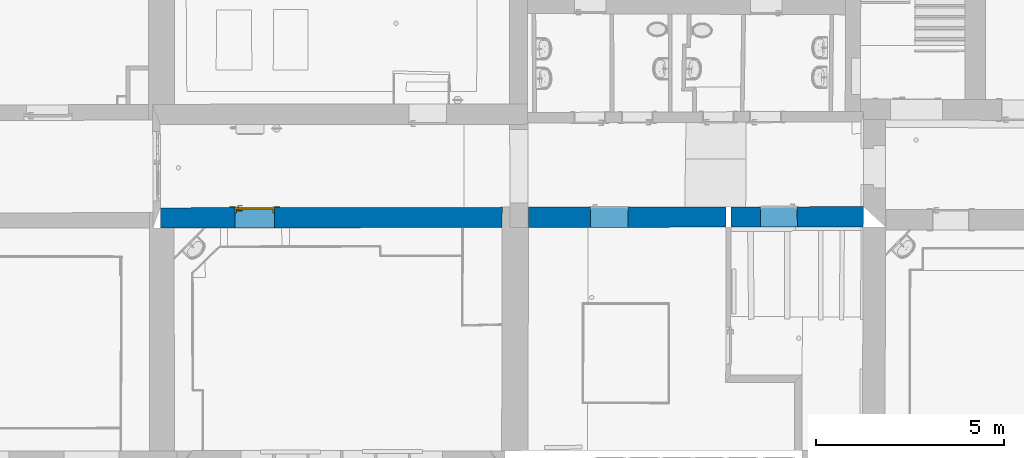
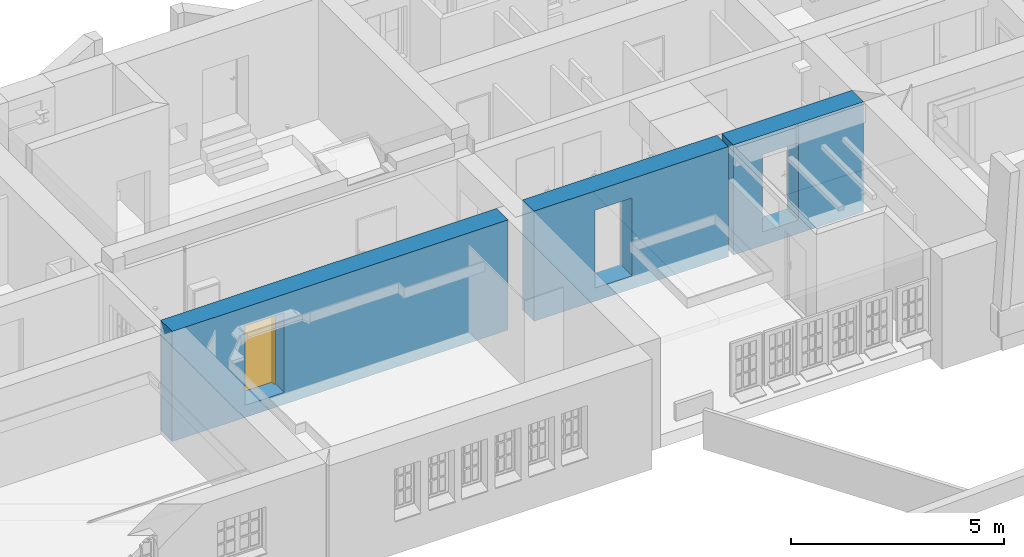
# One storey, part 95 of 196: 1 door, 1 wall, 3 openings.
"""IFC2X3 building model written with IfcOpenShell, lengths in metres."""

from ifc_helpers import new_model, entity, si_unit, converted_unit, derived_unit, money_unit, direction, frame, origin_with_axes, origin_2d_with_axis, place, context, subcontext, project, spatial, polyline, rectangle, outline, extrude, boolean, faceted_brep, material, type_object, element, fill, save


model = new_model("IFC2X3")

# Units and contexts
model_context = context("Model", 3, precision=1e-05, world=origin_with_axes(), true_north=direction((0.0, 1.0)))
body_context = subcontext(model_context, "Body", "Model", "MODEL_VIEW")
ifc_project = project(units=[si_unit("LENGTHUNIT", "METRE"), si_unit("AREAUNIT", "SQUARE_METRE"), si_unit("VOLUMEUNIT", "CUBIC_METRE"), converted_unit("PLANEANGLEUNIT", "DEGREE", entity("IfcPlaneAngleMeasure", 0.0174532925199), si_unit("PLANEANGLEUNIT", "RADIAN"), dimensions=[0, 0, 0, 0, 0, 0, 0]), money_unit("EUR"), converted_unit("TIMEUNIT", "Year", entity("IfcTimeMeasure", 31556926.0), si_unit("TIMEUNIT", "SECOND"), dimensions=[0, 0, 1, 0, 0, 0, 0]), si_unit("MASSUNIT", "GRAM", prefix="KILO"), si_unit("THERMODYNAMICTEMPERATUREUNIT", "DEGREE_CELSIUS"), si_unit("LUMINOUSINTENSITYUNIT", "LUMEN"), si_unit("ENERGYUNIT", "JOULE", prefix="MEGA"), derived_unit("THERMALCONDUCTANCEUNIT", [(si_unit("POWERUNIT", "WATT"), 1), (si_unit("LENGTHUNIT", "METRE"), -1), (si_unit("THERMODYNAMICTEMPERATUREUNIT", "KELVIN"), -1)]), derived_unit("SPECIFICHEATCAPACITYUNIT", [(si_unit("ENERGYUNIT", "JOULE"), 1), (si_unit("MASSUNIT", "GRAM", prefix="KILO"), -1), (si_unit("THERMODYNAMICTEMPERATUREUNIT", "KELVIN"), -1)]), derived_unit("MASSDENSITYUNIT", [(si_unit("MASSUNIT", "GRAM", prefix="KILO"), 1), (si_unit("VOLUMEUNIT", "CUBIC_METRE"), -1)])], contexts=[model_context])

# Site, building, storey
site_placement = place(None, origin_with_axes())
site = spatial("IfcSite", under=ifc_project, at=site_placement, Name="Gelände", CompositionType="ELEMENT")
building_placement = place(site_placement, origin_with_axes())
building = spatial("IfcBuilding", under=site, at=building_placement, Name="Gebäude", CompositionType="ELEMENT")
storey_placement = place(building_placement, frame((0.0, 0.0, -3.0), z_axis=(0.0, 0.0, 1.0), x_axis=(1.0, 0.0, 0.0)))
storey = spatial("IfcBuildingStorey", under=building, at=storey_placement, Name="KELLERGESCHOSS", CompositionType="ELEMENT", Elevation=-3.0)

# Wall, openings, door
ifc_material = material(Name="05_ALLGEMEIN - TRAGENDE BAUTEILE")
wall_type = type_object("IfcWallType", Name="05_ALLGEMEIN - TRAGENDE BAUTEILE 540", PredefinedType="ELEMENTEDWALL")
wall_placement = place(storey_placement, frame((21.9688178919, 16.9699382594, -0.36), z_axis=(0.0, 0.0, 1.0), x_axis=(-0.999998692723, -0.00161695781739, 0.0)))
wall = element("IfcWall", 1, at=wall_placement, inside=storey, type_object=wall_type, material=ifc_material, Name="Wand-036", ObjectType="ELEMENTEDWALL", context=body_context, shape_type="CSG", body=[
    boolean("DIFFERENCE", boolean("DIFFERENCE", boolean("DIFFERENCE", boolean("DIFFERENCE", extrude(outline(polyline([(-0.585878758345, 0.0), (18.9209869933, 0.0), (18.9209869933, 0.54), (-0.585878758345, 0.54), (-0.585878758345, 0.0)])), origin_with_axes(), (0.0, 0.0, 1.0), 3.15), faceted_brep([(18.7195389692, 0.54, 0.0), (18.7195389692, 0.54, 3.15), (18.9209869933, 0.54, 3.15), (18.9209869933, 0.54, 0.0), (18.7209862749, 0.0, 3.15), (18.7209862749, 0.0, 0.0), (18.9209869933, 0.0, 3.15), (18.9209869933, 0.0, 0.0)], [[[0, 1, 2, 3]], [[4, 1, 0, 5]], [[1, 4, 6, 2]], [[6, 7, 3, 2]], [[5, 0, 3, 7]], [[4, 5, 7, 6]]])), faceted_brep([(0.0, 0.0, 0.0), (0.0, 0.0, 3.15), (-0.585878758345, 0.0, 3.15), (-0.585878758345, 0.0, 0.0), (0.000340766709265, 0.0744834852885, 3.15), (0.000340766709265, 0.0744834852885, 0.0), (0.0031865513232, 0.0744756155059, 3.15), (0.0059051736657, 0.540000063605, 3.15), (-0.585878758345, 0.54, 3.15), (-0.585878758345, 0.54, 0.0), (0.00590520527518, 0.54, 0.0), (0.0031865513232, 0.0744756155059, 0.0), (0.0059051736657, 0.540000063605, 2.62)], [[[0, 1, 2, 3]], [[4, 1, 0, 5]], [[6, 7, 8, 2, 1, 4]], [[8, 9, 3, 2]], [[5, 0, 3, 9, 10, 11]], [[6, 4, 5, 11]], [[7, 6, 11, 10, 12]], [[12, 10, 9, 8, 7]]])), faceted_brep([(3.65791219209, 0.0, 0.0), (3.65791219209, 0.0, 3.15), (3.52791129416, 0.0, 3.15), (3.52791129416, 0.0, 0.0), (3.65991925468, 0.54, 3.15), (3.65991925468, 0.54, 0.0), (3.52991835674, 0.54, 3.15), (3.52991835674, 0.54, 0.0)], [[[0, 1, 2, 3]], [[4, 1, 0, 5]], [[1, 4, 6, 2]], [[3, 2, 6, 7]], [[5, 0, 3, 7]], [[4, 5, 7, 6]]])), faceted_brep([(9.61975499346, 0.0, 0.0), (9.61975499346, 0.0, 3.15), (8.91974889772, 0.0, 3.15), (8.91974889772, 0.0, 0.0), (9.62200857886, 0.54, 3.15), (9.62200857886, 0.54, 0.0), (8.92200248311, 0.54, 3.15), (8.92200248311, 0.54, 0.0)], [[[0, 1, 2, 3]], [[4, 1, 0, 5]], [[1, 4, 6, 2]], [[3, 2, 6, 7]], [[5, 0, 3, 7]], [[4, 5, 7, 6]]])),
])
opening_1_placement = place(wall_placement, frame((16.2148036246, 0.0, 0.348037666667), z_axis=(0.0, 0.0, 1.0), x_axis=(1.0, 0.0, 0.0)))
opening_1 = element("IfcOpeningElement", 2, at=opening_1_placement, cuts=wall, Name="Tür-022", context=body_context, shape_type="SweptSolid", body=[
    extrude(rectangle(XDim=1.05454069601, YDim=2.277381, at=origin_2d_with_axis()), frame((0.0, -0.54, 1.1386905), z_axis=(0.0, 1.0, 0.0), x_axis=(-1.0, 0.0, 0.0)), (0.0, 0.0, 1.0), 1.62),
])
opening_2_placement = place(wall_placement, frame((6.77224830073, 0.0, 0.373), z_axis=(0.0, 0.0, 1.0), x_axis=(1.0, 0.0, 0.0)))
element("IfcOpeningElement", 3, at=opening_2_placement, cuts=wall, Name="Tür-022", context=body_context, shape_type="SweptSolid", body=[
    extrude(rectangle(XDim=1.00009255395, YDim=2.2284909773, at=origin_2d_with_axis()), frame((0.0, -0.54, 1.11424548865), z_axis=(0.0, 1.0, 0.0), x_axis=(-1.0, 0.0, 0.0)), (0.0, 0.0, 1.0), 1.62),
])
opening_3_placement = place(wall_placement, frame((2.25172785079, 0.0, 0.382635), z_axis=(0.0, 0.0, 1.0), x_axis=(1.0, 0.0, 0.0)))
element("IfcOpeningElement", 4, at=opening_3_placement, cuts=wall, Name="Tür-022", context=body_context, shape_type="SweptSolid", body=[
    extrude(rectangle(XDim=0.976937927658, YDim=2.214082, at=origin_2d_with_axis()), frame((0.0, -0.54, 1.107041), z_axis=(0.0, -1.0, 0.0), x_axis=(1.0, 0.0, 0.0)), (0.0, 0.0, -1.0), 1.62),
])
door_style = type_object("IfcDoorStyle", Name="Blockrahmentür 1-Fl 25", ConstructionType="NOTDEFINED", OperationType="SINGLE_SWING_RIGHT", ParameterTakesPrecedence=False, Sizeable=False)
door_placement = place(opening_1_placement, frame((0.487270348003, 0.0, 0.0), z_axis=(0.0, 0.0, 1.0), x_axis=(-1.0, 0.0, 0.0)))
door = element("IfcDoor", 5, at=door_placement, inside=storey, type_object=door_style, Name="Tür-022", ObjectType="NOTDEFINED", OverallHeight=2.27738, OverallWidth=1.05454, context=body_context, shape_type="Brep", body=[
    faceted_brep([(1.01454069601, -0.14, 0.0), (1.01454069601, -0.035, 0.0), (1.01454069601, -0.035, 2.277381), (1.01454069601, -0.14, 2.277381), (0.974540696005, -0.14, 0.0), (0.974540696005, -0.035, 0.0), (0.974540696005, -0.035, 2.237381), (0.602370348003, -0.035, 2.237381), (0.487370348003, -0.035, 2.237381), (0.0, -0.035, 2.237381), (0.0, -0.035, 0.0), (-0.04, -0.035, 0.0), (-0.04, -0.035, 2.277381), (-0.04, -0.14, 2.277381), (-0.04, -0.14, 0.0), (0.0, -0.14, 0.0), (0.0, -0.14, 2.237381), (0.487370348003, -0.14, 2.237381), (0.602370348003, -0.14, 2.237381), (0.974540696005, -0.14, 2.237381)], [[[0, 1, 2, 3]], [[4, 5, 1, 0]], [[1, 5, 6, 7, 8, 9, 10, 11, 12, 2]], [[3, 2, 12, 13]], [[0, 3, 13, 14, 15, 16, 17, 18, 19, 4]], [[19, 6, 5, 4]], [[18, 7, 6, 19]], [[17, 8, 7, 18]], [[16, 9, 8, 17]], [[15, 10, 9, 16]], [[14, 11, 10, 15]], [[13, 12, 11, 14]]]),
    faceted_brep([(1.01454069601, -0.035, 0.0), (1.01454069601, 0.03, 0.0), (1.01454069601, 0.03, 2.277381), (1.01454069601, -0.035, 2.277381), (0.989540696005, -0.035, 0.0), (0.989540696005, 0.03, 0.0), (0.989540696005, 0.03, 2.252381), (0.587370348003, 0.03, 2.252381), (0.502370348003, 0.03, 2.252381), (-0.015, 0.03, 2.252381), (-0.015, 0.03, 0.0), (-0.04, 0.03, 0.0), (-0.04, 0.03, 2.277381), (-0.04, -0.035, 2.277381), (-0.04, -0.035, 0.0), (-0.015, -0.035, 0.0), (-0.015, -0.035, 2.252381), (0.502370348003, -0.035, 2.252381), (0.587370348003, -0.035, 2.252381), (0.989540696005, -0.035, 2.252381)], [[[0, 1, 2, 3]], [[4, 5, 1, 0]], [[1, 5, 6, 7, 8, 9, 10, 11, 12, 2]], [[3, 2, 12, 13]], [[0, 3, 13, 14, 15, 16, 17, 18, 19, 4]], [[19, 6, 5, 4]], [[18, 7, 6, 19]], [[17, 8, 7, 18]], [[16, 9, 8, 17]], [[15, 10, 9, 16]], [[14, 11, 10, 15]], [[13, 12, 11, 14]]]),
    faceted_brep([(1.15954069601, 0.0, 0.0), (1.15954069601, 0.03, 0.0), (1.15954069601, 0.03, 2.422381), (1.15954069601, 0.0, 2.422381), (1.01454069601, 0.0, 0.0), (1.01454069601, 0.03, 0.0), (1.01454069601, 0.03, 2.277381), (-0.04, 0.03, 2.277381), (-0.04, 0.03, 0.0), (-0.185, 0.03, 0.0), (-0.185, 0.03, 2.422381), (-0.185, 0.0, 2.422381), (-0.185, 0.0, 0.0), (-0.04, 0.0, 0.0), (-0.04, 0.0, 2.277381), (1.01454069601, 0.0, 2.277381)], [[[0, 1, 2, 3]], [[4, 5, 1, 0]], [[1, 5, 6, 7, 8, 9, 10, 2]], [[3, 2, 10, 11]], [[0, 3, 11, 12, 13, 14, 15, 4]], [[15, 6, 5, 4]], [[14, 7, 6, 15]], [[13, 8, 7, 14]], [[12, 9, 8, 13]], [[11, 10, 9, 12]]]),
    faceted_brep([(0.989540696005, 0.00200000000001, 0.0), (-0.015, 0.00200000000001, 0.0), (-0.015, 0.00200000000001, 2.252381), (0.989540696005, 0.00200000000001, 2.252381), (0.989540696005, -0.035, 0.0), (-0.015, -0.035, 0.0), (-0.015, -0.035, 2.252381), (0.989540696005, -0.035, 2.252381)], [[[0, 1, 2, 3]], [[1, 0, 4, 5]], [[2, 1, 5, 6]], [[3, 2, 6, 7]], [[0, 3, 7, 4]], [[5, 4, 7, 6]]]),
    faceted_brep([(0.0402977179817, -0.075, 1.05647213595), (0.045, -0.075, 1.058), (0.045, -0.055, 1.058), (0.0402977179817, -0.055, 1.05647213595), (0.0373915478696, -0.075, 1.05247213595), (0.0373915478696, -0.075, 1.04752786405), (0.0402977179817, -0.075, 1.04352786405), (0.045, -0.075, 1.042), (0.0497022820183, -0.075, 1.04352786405), (0.0526084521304, -0.075, 1.04752786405), (0.0526084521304, -0.075, 1.05247213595), (0.0497022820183, -0.075, 1.05647213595), (0.0497022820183, -0.055, 1.05647213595), (0.045, -0.053, 1.06), (0.0391221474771, -0.053, 1.05809016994), (0.0373915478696, -0.055, 1.05247213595), (0.0373915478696, -0.055, 1.04752786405), (0.0402977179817, -0.055, 1.04352786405), (0.045, -0.055, 1.042), (0.0497022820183, -0.055, 1.04352786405), (0.0526084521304, -0.055, 1.04752786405), (0.0526084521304, -0.055, 1.05247213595), (0.0508778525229, -0.053, 1.05809016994), (0.045, -0.045, 1.06), (0.0391221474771, -0.045, 1.05809016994), (0.035489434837, -0.053, 1.05309016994), (0.035489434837, -0.053, 1.04690983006), (0.0391221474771, -0.053, 1.04190983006), (0.045, -0.053, 1.04), (0.0508778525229, -0.053, 1.04190983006), (0.054510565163, -0.053, 1.04690983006), (0.054510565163, -0.053, 1.05309016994), (0.0508778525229, -0.045, 1.05809016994), (0.054510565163, -0.045, 1.05309016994), (0.054510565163, -0.045, 1.04690983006), (0.0508778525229, -0.045, 1.04190983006), (0.045, -0.045, 1.04), (0.0391221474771, -0.045, 1.04190983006), (0.035489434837, -0.045, 1.04690983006), (0.035489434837, -0.045, 1.05309016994)], [[[0, 1, 2, 3]], [[1, 0, 4, 5, 6, 7, 8, 9, 10, 11]], [[1, 11, 12, 2]], [[3, 2, 13, 14]], [[4, 0, 3, 15]], [[5, 4, 15, 16]], [[6, 5, 16, 17]], [[7, 6, 17, 18]], [[8, 7, 18, 19]], [[9, 8, 19, 20]], [[10, 9, 20, 21]], [[11, 10, 21, 12]], [[2, 12, 22, 13]], [[14, 13, 23, 24]], [[15, 3, 14, 25]], [[16, 15, 25, 26]], [[17, 16, 26, 27]], [[18, 17, 27, 28]], [[19, 18, 28, 29]], [[20, 19, 29, 30]], [[21, 20, 30, 31]], [[12, 21, 31, 22]], [[13, 22, 32, 23]], [[23, 32, 33, 34, 35, 36, 37, 38, 39, 24]], [[25, 14, 24, 39]], [[26, 25, 39, 38]], [[27, 26, 38, 37]], [[28, 27, 37, 36]], [[29, 28, 36, 35]], [[30, 29, 35, 34]], [[31, 30, 34, 33]], [[22, 31, 33, 32]]]),
    faceted_brep([(0.0571883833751, -0.045, 1.11759695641), (0.0494435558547, -0.045, 1.12195567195), (0.0405564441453, -0.045, 1.12195567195), (0.0328116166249, -0.045, 1.11759695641), (0.0282, -0.045, 1.11), (0.0225, -0.045, 1.11), (0.0225, -0.045, 0.89), (0.0282, -0.045, 0.89), (0.0328116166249, -0.045, 0.882403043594), (0.0405564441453, -0.045, 0.878044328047), (0.0494435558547, -0.045, 0.878044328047), (0.0571883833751, -0.045, 0.882403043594), (0.0618, -0.045, 0.89), (0.0675, -0.045, 0.89), (0.0675, -0.045, 1.11), (0.0618, -0.045, 1.11), (0.045, -0.045, 0.967425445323), (0.050375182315, -0.045, 0.965143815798), (0.0524678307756, -0.045, 0.959692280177), (0.05, -0.045, 0.9544), (0.05, -0.045, 0.9375), (0.0485355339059, -0.045, 0.933964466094), (0.045, -0.045, 0.9325), (0.0414644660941, -0.045, 0.933964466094), (0.04, -0.045, 0.9375), (0.04, -0.045, 0.9544), (0.0375321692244, -0.045, 0.959692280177), (0.039624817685, -0.045, 0.965143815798), (0.0571883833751, -0.035, 1.11759695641), (0.0494435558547, -0.035, 1.12195567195), (0.0405564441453, -0.035, 1.12195567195), (0.0328116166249, -0.035, 1.11759695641), (0.0282, -0.035, 1.11), (0.0225, -0.035, 1.11), (0.0225, -0.035, 0.89), (0.0282, -0.035, 0.89), (0.0328116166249, -0.035, 0.882403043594), (0.0405564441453, -0.035, 0.878044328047), (0.0494435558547, -0.035, 0.878044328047), (0.0571883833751, -0.035, 0.882403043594), (0.0618, -0.035, 0.89), (0.0675, -0.035, 0.89), (0.0675, -0.035, 1.11), (0.0618, -0.035, 1.11), (0.045, -0.035, 0.967425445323), (0.050375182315, -0.035, 0.965143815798), (0.0524678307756, -0.035, 0.959692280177), (0.05, -0.035, 0.9544), (0.05, -0.035, 0.9375), (0.0485355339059, -0.035, 0.933964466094), (0.045, -0.035, 0.9325), (0.0414644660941, -0.035, 0.933964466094), (0.04, -0.035, 0.9375), (0.04, -0.035, 0.9544), (0.0375321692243, -0.035, 0.959692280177), (0.039624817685, -0.035, 0.965143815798)], [[[0, 1, 2, 3, 4, 5, 6, 7, 8, 9, 10, 11, 12, 13, 14, 15], [16, 17, 18, 19, 20, 21, 22, 23, 24, 25, 26, 27]], [[1, 0, 28, 29]], [[2, 1, 29, 30]], [[3, 2, 30, 31]], [[4, 3, 31, 32]], [[5, 4, 32, 33]], [[6, 5, 33, 34]], [[7, 6, 34, 35]], [[8, 7, 35, 36]], [[9, 8, 36, 37]], [[10, 9, 37, 38]], [[11, 10, 38, 39]], [[12, 11, 39, 40]], [[13, 12, 40, 41]], [[14, 13, 41, 42]], [[15, 14, 42, 43]], [[0, 15, 43, 28]], [[17, 16, 44, 45]], [[18, 17, 45, 46]], [[19, 18, 46, 47]], [[19, 47, 48, 20]], [[20, 48, 49, 21]], [[21, 49, 50, 22]], [[22, 50, 51, 23]], [[23, 51, 52, 24]], [[53, 25, 24, 52]], [[26, 25, 53, 54]], [[27, 26, 54, 55]], [[16, 27, 55, 44]], [[40, 39, 38, 37, 36, 35, 34, 33, 32, 31, 30, 29, 28, 43, 42, 41], [54, 53, 52, 51, 50, 49, 48, 47, 46, 45, 44, 55]]]),
    faceted_brep([(0.159253, -0.075, 1.057158), (0.159253, -0.09, 1.057158), (0.159254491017, -0.09, 1.05719388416), (0.159254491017, -0.075, 1.05719388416), (0.132225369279, -0.075, 1.06432652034), (0.132225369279, -0.09, 1.06432652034), (0.104397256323, -0.09, 1.06706086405), (0.0764912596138, -0.09, 1.06529002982), (0.049232, -0.09, 1.05906), (0.0428294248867, -0.09, 1.05976125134), (0.0373273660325, -0.09, 1.05641280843), (0.0350084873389, -0.09, 1.05040385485), (0.0368348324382, -0.09, 1.04422735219), (0.0420486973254, -0.09, 1.04044577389), (0.0484869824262, -0.09, 1.04062800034), (0.0534786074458, -0.09, 1.04469843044), (0.053458, -0.09, 1.044666), (0.0787467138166, -0.09, 1.05019878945), (0.104589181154, -0.09, 1.05171460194), (0.130351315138, -0.09, 1.04917624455), (0.155401, -0.09, 1.042646), (0.160944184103, -0.09, 1.04356849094), (0.16430572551, -0.09, 1.04807159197), (0.163614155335, -0.09, 1.05364829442), (0.163614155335, -0.075, 1.05364829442), (0.16430572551, -0.075, 1.04807159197), (0.160944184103, -0.075, 1.04356849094), (0.155401, -0.075, 1.042646), (0.130351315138, -0.075, 1.04917624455), (0.104589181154, -0.075, 1.05171460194), (0.0787467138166, -0.075, 1.05019878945), (0.053458, -0.075, 1.044666), (0.0534786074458, -0.075, 1.04469843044), (0.0484869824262, -0.075, 1.04062800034), (0.0420486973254, -0.075, 1.04044577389), (0.0368348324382, -0.075, 1.04422735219), (0.0350084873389, -0.075, 1.05040385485), (0.0373273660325, -0.075, 1.05641280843), (0.0428294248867, -0.075, 1.05976125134), (0.049232, -0.075, 1.05906), (0.0764912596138, -0.075, 1.06529002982), (0.104397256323, -0.075, 1.06706086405)], [[[0, 1, 2, 3]], [[4, 5, 1, 0]], [[1, 5, 6, 7, 8, 9, 10, 11, 12, 13, 14, 15, 16, 17, 18, 19, 20, 21, 22, 23, 2]], [[3, 2, 23, 24]], [[0, 3, 24, 25, 26, 27, 28, 29, 30, 31, 32, 33, 34, 35, 36, 37, 38, 39, 40, 41, 4]], [[41, 6, 5, 4]], [[40, 7, 6, 41]], [[39, 8, 7, 40]], [[38, 9, 8, 39]], [[37, 10, 9, 38]], [[36, 11, 10, 37]], [[35, 12, 11, 36]], [[34, 13, 12, 35]], [[33, 14, 13, 34]], [[32, 15, 14, 33]], [[31, 16, 15, 32]], [[30, 17, 16, 31]], [[29, 18, 17, 30]], [[28, 19, 18, 29]], [[27, 20, 19, 28]], [[26, 21, 20, 27]], [[25, 22, 21, 26]], [[24, 23, 22, 25]]]),
    faceted_brep([(0.0402977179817, 0.042, 1.05647213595), (0.0402977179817, 0.022, 1.05647213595), (0.045, 0.022, 1.058), (0.045, 0.042, 1.058), (0.0373915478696, 0.042, 1.05247213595), (0.0373915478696, 0.022, 1.05247213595), (0.0391221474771, 0.02, 1.05809016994), (0.045, 0.02, 1.06), (0.0497022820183, 0.022, 1.05647213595), (0.0497022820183, 0.042, 1.05647213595), (0.0526084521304, 0.042, 1.05247213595), (0.0526084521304, 0.042, 1.04752786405), (0.0497022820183, 0.042, 1.04352786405), (0.045, 0.042, 1.042), (0.0402977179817, 0.042, 1.04352786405), (0.0373915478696, 0.042, 1.04752786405), (0.0373915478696, 0.022, 1.04752786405), (0.035489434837, 0.02, 1.05309016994), (0.0391221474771, 0.012, 1.05809016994), (0.045, 0.012, 1.06), (0.0508778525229, 0.02, 1.05809016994), (0.0526084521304, 0.022, 1.05247213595), (0.0526084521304, 0.022, 1.04752786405), (0.0497022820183, 0.022, 1.04352786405), (0.045, 0.022, 1.042), (0.0402977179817, 0.022, 1.04352786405), (0.035489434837, 0.02, 1.04690983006), (0.035489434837, 0.012, 1.05309016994), (0.035489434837, 0.012, 1.04690983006), (0.0391221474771, 0.012, 1.04190983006), (0.045, 0.012, 1.04), (0.0508778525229, 0.012, 1.04190983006), (0.054510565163, 0.012, 1.04690983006), (0.054510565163, 0.012, 1.05309016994), (0.0508778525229, 0.012, 1.05809016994), (0.054510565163, 0.02, 1.05309016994), (0.054510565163, 0.02, 1.04690983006), (0.0508778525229, 0.02, 1.04190983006), (0.045, 0.02, 1.04), (0.0391221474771, 0.02, 1.04190983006)], [[[0, 1, 2, 3]], [[4, 5, 1, 0]], [[1, 6, 7, 2]], [[3, 2, 8, 9]], [[3, 9, 10, 11, 12, 13, 14, 15, 4, 0]], [[15, 16, 5, 4]], [[5, 17, 6, 1]], [[6, 18, 19, 7]], [[2, 7, 20, 8]], [[9, 8, 21, 10]], [[10, 21, 22, 11]], [[11, 22, 23, 12]], [[12, 23, 24, 13]], [[13, 24, 25, 14]], [[14, 25, 16, 15]], [[16, 26, 17, 5]], [[17, 27, 18, 6]], [[19, 18, 27, 28, 29, 30, 31, 32, 33, 34]], [[7, 19, 34, 20]], [[8, 20, 35, 21]], [[21, 35, 36, 22]], [[22, 36, 37, 23]], [[23, 37, 38, 24]], [[24, 38, 39, 25]], [[25, 39, 26, 16]], [[26, 28, 27, 17]], [[39, 29, 28, 26]], [[38, 30, 29, 39]], [[37, 31, 30, 38]], [[36, 32, 31, 37]], [[35, 33, 32, 36]], [[20, 34, 33, 35]]]),
    faceted_brep([(0.0571883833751, 0.00200000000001, 1.11759695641), (0.0494435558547, 0.00200000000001, 1.12195567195), (0.0405564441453, 0.00200000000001, 1.12195567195), (0.0328116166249, 0.00200000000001, 1.11759695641), (0.0282, 0.00200000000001, 1.11), (0.0225, 0.00200000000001, 1.11), (0.0225, 0.00200000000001, 0.89), (0.0282, 0.00200000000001, 0.89), (0.0328116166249, 0.00200000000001, 0.882403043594), (0.0405564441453, 0.00200000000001, 0.878044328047), (0.0494435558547, 0.00200000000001, 0.878044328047), (0.0571883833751, 0.00200000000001, 0.882403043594), (0.0618, 0.00200000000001, 0.89), (0.0675, 0.00200000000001, 0.89), (0.0675, 0.00200000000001, 1.11), (0.0618, 0.00200000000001, 1.11), (0.045, 0.002, 0.967425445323), (0.050375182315, 0.00200000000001, 0.965143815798), (0.0524678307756, 0.00200000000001, 0.959692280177), (0.05, 0.002, 0.9544), (0.05, 0.002, 0.9375), (0.0485355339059, 0.00200000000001, 0.933964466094), (0.045, 0.002, 0.9325), (0.0414644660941, 0.00200000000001, 0.933964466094), (0.04, 0.002, 0.9375), (0.04, 0.002, 0.9544), (0.0375321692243, 0.00200000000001, 0.959692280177), (0.039624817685, 0.002, 0.965143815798), (0.0494435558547, 0.012, 1.12195567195), (0.0571883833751, 0.012, 1.11759695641), (0.0405564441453, 0.012, 1.12195567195), (0.0328116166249, 0.012, 1.11759695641), (0.0282, 0.012, 1.11), (0.0225, 0.012, 1.11), (0.0225, 0.012, 0.89), (0.0282, 0.012, 0.89), (0.0328116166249, 0.012, 0.882403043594), (0.0405564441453, 0.012, 0.878044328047), (0.0494435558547, 0.012, 0.878044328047), (0.0571883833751, 0.012, 0.882403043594), (0.0618, 0.012, 0.89), (0.0675, 0.012, 0.89), (0.0675, 0.012, 1.11), (0.0618, 0.012, 1.11), (0.045, 0.012, 0.967425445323), (0.050375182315, 0.012, 0.965143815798), (0.0524678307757, 0.012, 0.959692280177), (0.05, 0.012, 0.9544), (0.05, 0.012, 0.9375), (0.0485355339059, 0.012, 0.933964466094), (0.045, 0.012, 0.9325), (0.0414644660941, 0.012, 0.933964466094), (0.04, 0.012, 0.9375), (0.04, 0.012, 0.9544), (0.0375321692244, 0.012, 0.959692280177), (0.039624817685, 0.012, 0.965143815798)], [[[0, 1, 2, 3, 4, 5, 6, 7, 8, 9, 10, 11, 12, 13, 14, 15], [16, 17, 18, 19, 20, 21, 22, 23, 24, 25, 26, 27]], [[28, 1, 0, 29]], [[30, 2, 1, 28]], [[31, 3, 2, 30]], [[32, 4, 3, 31]], [[33, 5, 4, 32]], [[34, 6, 5, 33]], [[35, 7, 6, 34]], [[36, 8, 7, 35]], [[37, 9, 8, 36]], [[38, 10, 9, 37]], [[39, 11, 10, 38]], [[40, 12, 11, 39]], [[41, 13, 12, 40]], [[42, 14, 13, 41]], [[43, 15, 14, 42]], [[29, 0, 15, 43]], [[17, 16, 44, 45]], [[18, 17, 45, 46]], [[19, 18, 46, 47]], [[19, 47, 48, 20]], [[20, 48, 49, 21]], [[21, 49, 50, 22]], [[22, 50, 51, 23]], [[23, 51, 52, 24]], [[53, 25, 24, 52]], [[26, 25, 53, 54]], [[27, 26, 54, 55]], [[16, 27, 55, 44]], [[40, 39, 38, 37, 36, 35, 34, 33, 32, 31, 30, 28, 29, 43, 42, 41], [54, 53, 52, 51, 50, 49, 48, 47, 46, 45, 44, 55]]]),
    faceted_brep([(0.159253, 0.042, 1.057158), (0.159254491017, 0.042, 1.05719388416), (0.159254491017, 0.057, 1.05719388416), (0.159253, 0.057, 1.057158), (0.132225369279, 0.042, 1.06432652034), (0.104397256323, 0.042, 1.06706086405), (0.0764912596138, 0.042, 1.06529002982), (0.049232, 0.042, 1.05906), (0.0428294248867, 0.042, 1.05976125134), (0.0373273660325, 0.042, 1.05641280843), (0.0350084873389, 0.042, 1.05040385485), (0.0368348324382, 0.042, 1.04422735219), (0.0420486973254, 0.042, 1.04044577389), (0.0484869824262, 0.042, 1.04062800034), (0.0534786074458, 0.042, 1.04469843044), (0.053458, 0.042, 1.044666), (0.0787467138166, 0.042, 1.05019878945), (0.104589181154, 0.042, 1.05171460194), (0.130351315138, 0.042, 1.04917624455), (0.155401, 0.042, 1.042646), (0.160944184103, 0.042, 1.04356849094), (0.16430572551, 0.042, 1.04807159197), (0.163614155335, 0.042, 1.05364829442), (0.163614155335, 0.057, 1.05364829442), (0.16430572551, 0.057, 1.04807159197), (0.160944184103, 0.057, 1.04356849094), (0.155401, 0.057, 1.042646), (0.130351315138, 0.057, 1.04917624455), (0.104589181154, 0.057, 1.05171460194), (0.0787467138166, 0.057, 1.05019878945), (0.053458, 0.057, 1.044666), (0.0534786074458, 0.057, 1.04469843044), (0.0484869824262, 0.057, 1.04062800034), (0.0420486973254, 0.057, 1.04044577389), (0.0368348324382, 0.057, 1.04422735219), (0.0350084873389, 0.057, 1.05040385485), (0.0373273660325, 0.057, 1.05641280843), (0.0428294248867, 0.057, 1.05976125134), (0.049232, 0.057, 1.05906), (0.0764912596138, 0.057, 1.06529002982), (0.104397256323, 0.057, 1.06706086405), (0.132225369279, 0.057, 1.06432652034)], [[[0, 1, 2, 3]], [[0, 4, 5, 6, 7, 8, 9, 10, 11, 12, 13, 14, 15, 16, 17, 18, 19, 20, 21, 22, 1]], [[1, 22, 23, 2]], [[3, 2, 23, 24, 25, 26, 27, 28, 29, 30, 31, 32, 33, 34, 35, 36, 37, 38, 39, 40, 41]], [[4, 0, 3, 41]], [[5, 4, 41, 40]], [[6, 5, 40, 39]], [[7, 6, 39, 38]], [[8, 7, 38, 37]], [[9, 8, 37, 36]], [[10, 9, 36, 35]], [[11, 10, 35, 34]], [[12, 11, 34, 33]], [[13, 12, 33, 32]], [[14, 13, 32, 31]], [[15, 14, 31, 30]], [[16, 15, 30, 29]], [[17, 16, 29, 28]], [[18, 17, 28, 27]], [[19, 18, 27, 26]], [[20, 19, 26, 25]], [[21, 20, 25, 24]], [[22, 21, 24, 23]]]),
])
fill(opening_1, door)

save(model, "model.ifc")
